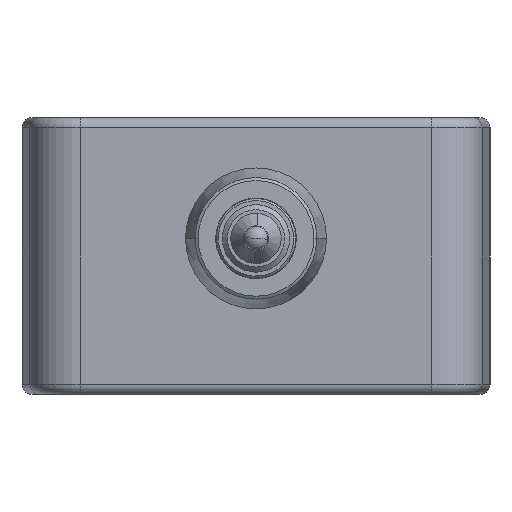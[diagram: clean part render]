
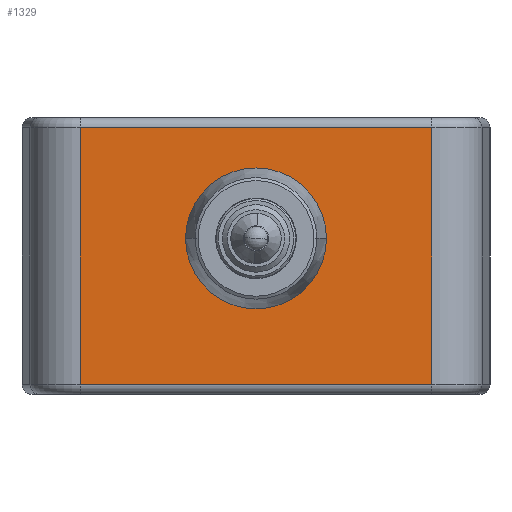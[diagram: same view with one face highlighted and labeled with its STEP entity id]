
A CAD part, front view. The second image highlights one B-rep face of the part: STEP entity #1329.
In plain terms, the highlighted planar face has unit normal (0, -1, 0).
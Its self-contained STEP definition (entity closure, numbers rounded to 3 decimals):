
#1077=LINE('',#4054,#1173);
#1078=LINE('',#4058,#1174);
#1079=LINE('',#4060,#1175);
#1080=LINE('',#4062,#1176);
#1173=VECTOR('',#3416,1.);
#1174=VECTOR('',#3421,1.);
#1175=VECTOR('',#3422,1.);
#1176=VECTOR('',#3423,1.);
#1243=PLANE('',#2959);
#1329=ADVANCED_FACE('NONE',(#1502,#1503),#1243,.F.);
#1502=FACE_BOUND('',#1646,.T.);
#1503=FACE_BOUND('',#1647,.T.);
#1646=EDGE_LOOP('',(#1986,#1987));
#1647=EDGE_LOOP('',(#1988,#1989,#1990,#1991));
#1986=ORIENTED_EDGE('',*,*,#2456,.F.);
#1987=ORIENTED_EDGE('',*,*,#2459,.F.);
#1988=ORIENTED_EDGE('',*,*,#2567,.T.);
#1989=ORIENTED_EDGE('',*,*,#2569,.T.);
#1990=ORIENTED_EDGE('',*,*,#2570,.T.);
#1991=ORIENTED_EDGE('',*,*,#2571,.T.);
#2282=VERTEX_POINT('',#3822);
#2284=VERTEX_POINT('',#3825);
#2357=VERTEX_POINT('',#4053);
#2358=VERTEX_POINT('',#4055);
#2359=VERTEX_POINT('',#4059);
#2360=VERTEX_POINT('',#4061);
#2456=EDGE_CURVE('',#2282,#2284,#2708,.T.);
#2459=EDGE_CURVE('',#2284,#2282,#2710,.T.);
#2567=EDGE_CURVE('',#2358,#2357,#1077,.T.);
#2569=EDGE_CURVE('',#2357,#2359,#1078,.T.);
#2570=EDGE_CURVE('',#2359,#2360,#1079,.T.);
#2571=EDGE_CURVE('',#2360,#2358,#1080,.T.);
#2708=CIRCLE('',#2864,7.);
#2710=CIRCLE('',#2867,7.);
#2864=AXIS2_PLACEMENT_3D('',#3824,#3167,#3168);
#2867=AXIS2_PLACEMENT_3D('',#3830,#3174,#3175);
#2959=AXIS2_PLACEMENT_3D('',#4063,#3424,#3425);
#3167=DIRECTION('',(0.,-1.,0.));
#3168=DIRECTION('',(0.,0.,1.));
#3174=DIRECTION('',(0.,-1.,0.));
#3175=DIRECTION('',(0.,0.,1.));
#3416=DIRECTION('',(0.,0.,-1.));
#3421=DIRECTION('',(1.,0.,0.));
#3422=DIRECTION('',(0.,0.,1.));
#3423=DIRECTION('',(-1.,0.,0.));
#3424=DIRECTION('',(0.,1.,0.));
#3425=DIRECTION('',(0.,0.,1.));
#3822=CARTESIAN_POINT('',(4.349,354.247,0.));
#3824=CARTESIAN_POINT('',(-2.651,354.247,0.));
#3825=CARTESIAN_POINT('',(-9.651,354.247,0.));
#3830=CARTESIAN_POINT('',(-2.651,354.247,0.));
#4053=CARTESIAN_POINT('',(-20.122,354.247,-14.5));
#4054=CARTESIAN_POINT('',(-20.122,354.247,9.));
#4055=CARTESIAN_POINT('',(-20.122,354.247,11.));
#4058=CARTESIAN_POINT('',(13.638,354.247,-14.5));
#4059=CARTESIAN_POINT('',(14.82,354.247,-14.5));
#4060=CARTESIAN_POINT('',(14.82,354.247,9.));
#4061=CARTESIAN_POINT('',(14.82,354.247,11.));
#4062=CARTESIAN_POINT('',(-18.939,354.247,11.));
#4063=CARTESIAN_POINT('',(-20.122,354.247,9.));
